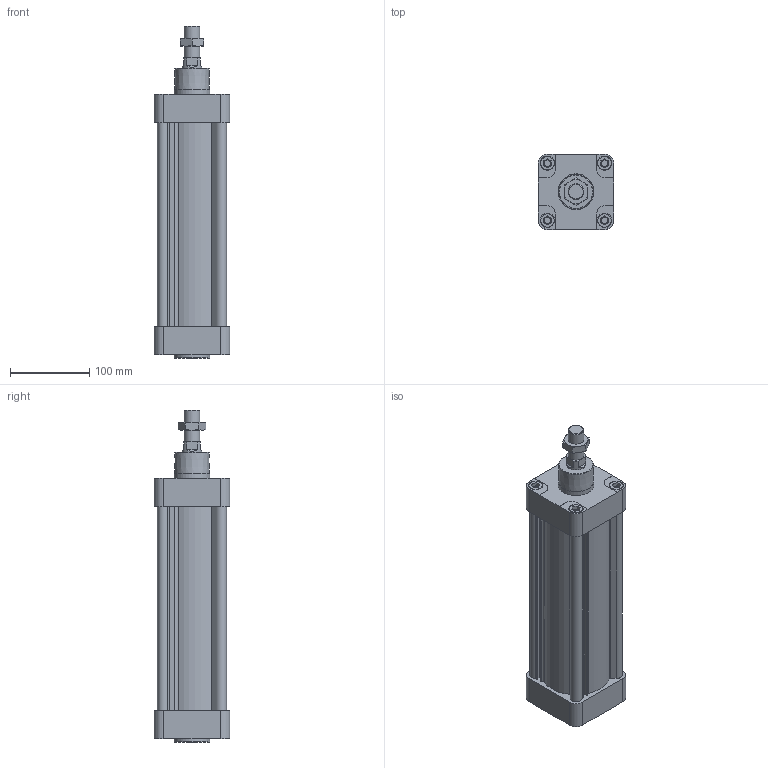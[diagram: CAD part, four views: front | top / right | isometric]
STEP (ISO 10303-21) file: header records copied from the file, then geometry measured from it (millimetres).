
FILE_DESCRIPTION( ( 'STEP AP203' ), '1' );
FILE_NAME( 'p:/temp/worker_5/temp/app_90_02018091519293907611976192d056f_000000_00_00_000000/format_0/MCQI2-11-80-200M(0_0).stp', '2018-09-15T17:29:40', ( '' ), ( '' ), ' ', 'PARTsolutions', ' ' );
FILE_SCHEMA( ( 'CONFIG_CONTROL_DESIGN' ) );
Length unit declared in the file: millimetre
Products named in the file (4): MCQI2-11-80-200M(0_0); _MCQI2-11-80-200M(00-b); _MCQI2-11-80-200M(00-r); _MCQI280(-n)
Assembly tree (3 placements, depth 2):
  MCQI2-11-80-200M(0_0)
    _MCQI2-11-80-200M(00-b)
    _MCQI2-11-80-200M(00-r)
    _MCQI280(-n)
Bounding box: 95 x 95 x 418 mm (x, y, z)
Volume: 1496139.5 mm3; surface area: 317732.1 mm2
Topology: 3 solids, 3 shells, 397 faces, 978 edges, 625 vertices
Faces by surface type: plane 251, cylinder 118, cone 26, torus 2
Full cylindrical faces by diameter (mm): 8.376 x8, 11 x2, 11.8 x2, 14.95 x2, 17 x8, 18 x8, 18.376 x1, 20 x1, 25 x2, 45 x2, 80 x2
Entity records: 11634 total; most frequent: CARTESIAN_POINT 2111, DIRECTION 2009, ORIENTED_EDGE 1840, EDGE_CURVE 920, AXIS2_PLACEMENT_3D 713, VERTEX_POINT 621, LINE 583, VECTOR 583
